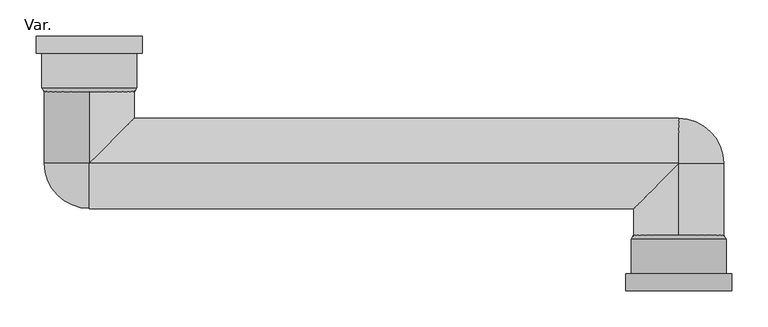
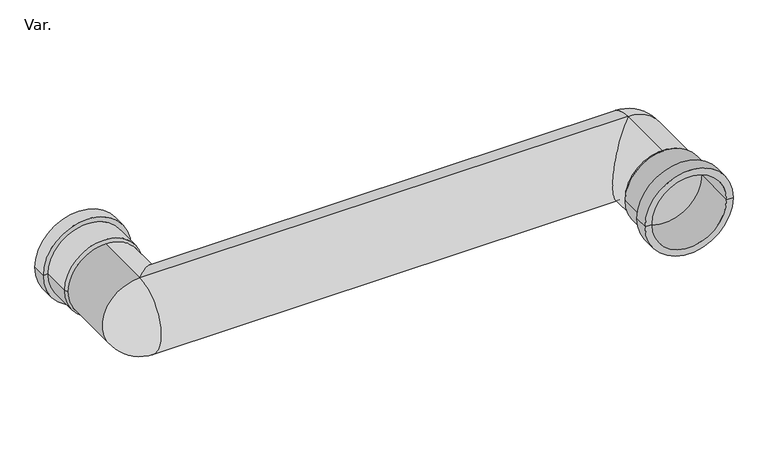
"""IFC4 building model written with IfcOpenShell, lengths in millimetres: pipe fitting geometry, NLRS-90-PIF_Wavin PVC Buitenriolering Polder Expansiestuk : Var.."""

from ifc_helpers import new_model, si_unit, point, frame, origin, place, context, project, spatial, polyline, circle_curve, ellipse_curve, trimmed, source, transform, mapped, element, save
from ifc_brep_helpers import plane_surface, cylinder_surface, revolved_surface, advanced_brep


def var_4b5954e3(model_context):
    return source(origin(), model_context, "Body", "AdvancedBrep", [
        advanced_brep(
        [(345.0, -176.0, 0.0), (470.0, -176.0, 0.0), (470.0, -99.4574374, 0.0), (345.0, -99.4574374, 0.0), (334.0, -176.0, 0.0), (481.0, -176.0, 0.0), (334.0, -152.5, 0.0), (481.0, -152.5, 0.0), (341.8, -152.5, 0.0), (473.2, -152.5, 0.0), (341.8, -105.0, 0.0), (473.2, -105.0, 0.0)],
        [
            (0, 1, circle_curve(frame((407.5, -176.0, 0.0), z_axis=(0.0, -1.0, 0.0), x_axis=(1.0, 0.0, 0.0)), 62.5)),
            (1, 2),
            (2, 3, circle_curve(frame((407.5, -99.4574374, 0.0), z_axis=(0.0, 1.0, 0.0), x_axis=(1.0, 0.0, 0.0)), 62.5)),
            (3, 0),
            (1, 0, circle_curve(frame((407.5, -176.0, 0.0), z_axis=(0.0, -1.0, 0.0), x_axis=(1.0, 0.0, 0.0)), 62.5)),
            (3, 2, circle_curve(frame((407.5, -99.4574374, 0.0), z_axis=(0.0, 1.0, 0.0), x_axis=(1.0, 0.0, 0.0)), 62.5)),
            (4, 5, circle_curve(frame((407.5, -176.0, 0.0), z_axis=(0.0, -1.0, 0.0), x_axis=(1.0, 0.0, 0.0)), 73.5)),
            (5, 1),
            (0, 4),
            (5, 4, circle_curve(frame((407.5, -176.0, 0.0), z_axis=(0.0, -1.0, 0.0), x_axis=(1.0, 0.0, 0.0)), 73.5)),
            (6, 7, circle_curve(frame((407.5, -152.5, 0.0), z_axis=(0.0, -1.0, 0.0), x_axis=(1.0, 0.0, 0.0)), 73.5)),
            (7, 5),
            (4, 6),
            (7, 6, circle_curve(frame((407.5, -152.5, 0.0), z_axis=(0.0, -1.0, 0.0), x_axis=(1.0, 0.0, 0.0)), 73.5)),
            (8, 9, circle_curve(frame((407.5, -152.5, 0.0), z_axis=(0.0, -1.0, 0.0), x_axis=(1.0, 0.0, 0.0)), 65.7)),
            (9, 7),
            (6, 8),
            (9, 8, circle_curve(frame((407.5, -152.5, 0.0), z_axis=(0.0, -1.0, 0.0), x_axis=(1.0, 0.0, 0.0)), 65.7)),
            (10, 11, circle_curve(frame((407.5, -105.0, 0.0), z_axis=(0.0, -1.0, 0.0), x_axis=(1.0, 0.0, 0.0)), 65.7)),
            (11, 9),
            (8, 10),
            (11, 10, circle_curve(frame((407.5, -105.0, 0.0), z_axis=(0.0, -1.0, 0.0), x_axis=(1.0, 0.0, 0.0)), 65.7)),
            (2, 11),
            (10, 3),
        ],
        [
            revolved_surface(polyline([(470.0, -99.4574374, 0.0), (470.0, -175.99999999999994, 0.0)]), (407.5, 373.9400222, 0.0), (0.0, 1.0, 0.0)),
            plane_surface(frame((407.5, -176.0, 0.0), z_axis=(0.0, -1.0, 0.0), x_axis=(1.0, 0.0, 0.0))),
            cylinder_surface(frame((407.5, 373.9400222, 0.0), z_axis=(0.0, 1.0, 0.0), x_axis=(1.0, 0.0, 0.0)), 73.5),
            plane_surface(frame((407.5, -152.5, 0.0), z_axis=(0.0, 1.0, 0.0), x_axis=(1.0, 0.0, 0.0))),
            cylinder_surface(frame((407.5, 373.9400222, 0.0), z_axis=(0.0, 1.0, 0.0), x_axis=(1.0, 0.0, 0.0)), 65.7),
            revolved_surface(polyline([(473.2, -105.0, 0.0), (470.0, -99.4574374, 0.0)]), (407.5, 373.9400222, 0.0), (0.0, 1.0, 0.0)),
        ],
        [
            (0, [[1, 2, 3, 4]]),
            (0, [[5, -4, 6, -2]]),
            (1, [[7, 8, -1, 9]]),
            (1, [[10, -9, -5, -8]]),
            (2, [[11, 12, -7, 13]]),
            (2, [[14, -13, -10, -12]]),
            (3, [[15, 16, -11, 17]]),
            (3, [[18, -17, -14, -16]]),
            (4, [[19, 20, -15, 21]]),
            (4, [[22, -21, -18, -20]]),
            (5, [[-3, 23, -19, 24]]),
            (5, [[-6, -24, -22, -23]]),
        ],
    ),
        advanced_brep(
        [(-345.0, 176.0, 0.0), (-470.0, 176.0, 0.0), (-470.0, 99.4574374, 0.0), (-345.0, 99.4574374, 0.0), (-334.0, 176.0, 0.0), (-481.0, 176.0, 0.0), (-334.0, 152.5, 0.0), (-481.0, 152.5, 0.0), (-341.8, 152.5, 0.0), (-473.2, 152.5, 0.0), (-341.8, 105.0, 0.0), (-473.2, 105.0, 0.0)],
        [
            (0, 1, circle_curve(frame((-407.5, 176.0, 0.0), z_axis=(0.0, 1.0, 0.0), x_axis=(-1.0, 0.0, 0.0)), 62.5)),
            (1, 2),
            (2, 3, circle_curve(frame((-407.5, 99.4574374, 0.0), z_axis=(0.0, -1.0, 0.0), x_axis=(-1.0, 0.0, 0.0)), 62.5)),
            (3, 0),
            (1, 0, circle_curve(frame((-407.5, 176.0, 0.0), z_axis=(0.0, 1.0, 0.0), x_axis=(-1.0, 0.0, 0.0)), 62.5)),
            (3, 2, circle_curve(frame((-407.5, 99.4574374, 0.0), z_axis=(0.0, -1.0, 0.0), x_axis=(-1.0, 0.0, 0.0)), 62.5)),
            (4, 5, circle_curve(frame((-407.5, 176.0, 0.0), z_axis=(0.0, 1.0, 0.0), x_axis=(-1.0, 0.0, 0.0)), 73.5)),
            (5, 1),
            (0, 4),
            (5, 4, circle_curve(frame((-407.5, 176.0, 0.0), z_axis=(0.0, 1.0, 0.0), x_axis=(-1.0, 0.0, 0.0)), 73.5)),
            (6, 7, circle_curve(frame((-407.5, 152.5, 0.0), z_axis=(0.0, 1.0, 0.0), x_axis=(-1.0, 0.0, 0.0)), 73.5)),
            (7, 5),
            (4, 6),
            (7, 6, circle_curve(frame((-407.5, 152.5, 0.0), z_axis=(0.0, 1.0, 0.0), x_axis=(-1.0, 0.0, 0.0)), 73.5)),
            (8, 9, circle_curve(frame((-407.5, 152.5, 0.0), z_axis=(0.0, 1.0, 0.0), x_axis=(-1.0, 0.0, 0.0)), 65.7)),
            (9, 7),
            (6, 8),
            (9, 8, circle_curve(frame((-407.5, 152.5, 0.0), z_axis=(0.0, 1.0, 0.0), x_axis=(-1.0, 0.0, 0.0)), 65.7)),
            (10, 11, circle_curve(frame((-407.5, 105.0, 0.0), z_axis=(0.0, 1.0, 0.0), x_axis=(-1.0, 0.0, 0.0)), 65.7)),
            (11, 9),
            (8, 10),
            (11, 10, circle_curve(frame((-407.5, 105.0, 0.0), z_axis=(0.0, 1.0, 0.0), x_axis=(-1.0, 0.0, 0.0)), 65.7)),
            (2, 11),
            (10, 3),
        ],
        [
            revolved_surface(polyline([(-470.0, 99.4574374, 0.0), (-470.0, 175.99999999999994, 0.0)]), (-407.5, -373.9400222, 0.0), (0.0, -1.0, 0.0)),
            plane_surface(frame((-407.5, 176.0, 0.0), z_axis=(0.0, 1.0, 0.0), x_axis=(-1.0, 0.0, 0.0))),
            cylinder_surface(frame((-407.5, -373.9400222, 0.0), z_axis=(0.0, -1.0, 0.0), x_axis=(-1.0, 0.0, 0.0)), 73.5),
            plane_surface(frame((-407.5, 152.5, 0.0), z_axis=(0.0, -1.0, 0.0), x_axis=(-1.0, 0.0, 0.0))),
            cylinder_surface(frame((-407.5, -373.9400222, 0.0), z_axis=(0.0, -1.0, 0.0), x_axis=(-1.0, 0.0, 0.0)), 65.7),
            revolved_surface(polyline([(-473.2, 105.0, 0.0), (-470.0, 99.4574374, 0.0)]), (-407.5, -373.9400222, 0.0), (0.0, -1.0, 0.0)),
        ],
        [
            (0, [[1, 2, 3, 4]]),
            (0, [[5, -4, 6, -2]]),
            (1, [[7, 8, -1, 9]]),
            (1, [[10, -9, -5, -8]]),
            (2, [[11, 12, -7, 13]]),
            (2, [[14, -13, -10, -12]]),
            (3, [[15, 16, -11, 17]]),
            (3, [[18, -17, -14, -16]]),
            (4, [[19, 20, -15, 21]]),
            (4, [[22, -21, -18, -20]]),
            (5, [[-3, 23, -19, 24]]),
            (5, [[-6, -24, -22, -23]]),
        ],
    ),
        advanced_brep(
        [(407.5, 0.0, -62.5), (407.5, 0.0, 62.5), (-407.5, 0.0, 62.5), (-407.5, 0.0, -62.5), (-407.5, 105.0, -62.5), (-407.5, 105.0, 62.5), (407.5, -105.0, -62.5), (407.5, -105.0, 62.5)],
        [
            (0, 1, circle_curve(frame((407.5, 0.0, 0.0), z_axis=(1.0, 0.0, 0.0), x_axis=(0.0, 0.0, -1.0)), 62.5)),
            (1, 0, circle_curve(frame((407.5, 0.0, 0.0), z_axis=(0.0, 1.0, 0.0), x_axis=(0.0, 0.0, -1.0)), 62.5)),
            (1, 2),
            (2, 3, circle_curve(frame((-407.5, 0.0, 0.0), z_axis=(1.0, 0.0, 0.0), x_axis=(0.0, 0.0, -1.0)), 62.5)),
            (3, 0),
            (0, 1, ellipse_curve(frame((407.5, 0.0, 0.0), z_axis=(-0.7071067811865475, 0.7071067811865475, 0.0), x_axis=(0.7071067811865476, 0.7071067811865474, 0.0)), 88.3883476, 62.5)),
            (3, 2, ellipse_curve(frame((-407.5, 0.0, 0.0), z_axis=(0.7071067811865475, -0.7071067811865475, 0.0), x_axis=(0.7071067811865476, 0.7071067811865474, 0.0)), 88.3883476, 62.5)),
            (2, 3, circle_curve(frame((-407.5, 0.0, 0.0), z_axis=(0.0, -1.0, 0.0), x_axis=(0.0, 0.0, -1.0)), 62.5)),
            (4, 5, circle_curve(frame((-407.5, 105.0, 0.0), z_axis=(0.0, 1.0, 0.0), x_axis=(0.0, 0.0, 1.0)), 62.5)),
            (5, 4, circle_curve(frame((-407.5, 105.0, 0.0), z_axis=(0.0, 1.0, 0.0), x_axis=(0.0, 0.0, 1.0)), 62.5)),
            (4, 3),
            (2, 5),
            (6, 7, circle_curve(frame((407.5, -105.0, 0.0), z_axis=(0.0, -1.0, 0.0), x_axis=(0.0, 0.0, 1.0)), 62.5)),
            (7, 6, circle_curve(frame((407.5, -105.0, 0.0), z_axis=(0.0, -1.0, 0.0), x_axis=(0.0, 0.0, 1.0)), 62.5)),
            (6, 0),
            (1, 7),
        ],
        [
            revolved_surface(trimmed(ellipse_curve(frame((407.5, 0.0, 0.0), z_axis=(0.0, -1.0, 0.0), x_axis=(0.0, 0.0, -1.0)), 62.5, 62.5), [point((407.5, 0.0, -62.5))], [point((407.5, 0.0, 62.5))], True, "CARTESIAN"), (407.5, 0.0, 712.20066), (0.0, 0.0, 1.0)),
            cylinder_surface(frame((-407.5, 0.0, 0.0), z_axis=(1.0, 0.0, 0.0), x_axis=(0.0, 0.0, -1.0)), 62.5),
            revolved_surface(trimmed(ellipse_curve(frame((-407.5, 0.0, 0.0), z_axis=(1.0, 0.0, 0.0), x_axis=(0.0, 0.0, -1.0)), 62.5, 62.5), [point((-407.5, 0.0, 62.5))], [point((-407.5, 0.0, -62.5))], True, "CARTESIAN"), (-407.5, 0.0, -1404.9208958), (0.0, 0.0, -1.0)),
            plane_surface(frame((-407.5, 105.0, 62.5), z_axis=(0.0, 1.0, 0.0), x_axis=(1.0, 0.0, 0.0))),
            cylinder_surface(frame((-407.5, 0.0, 0.0), z_axis=(0.0, 1.0, 0.0), x_axis=(0.0, 0.0, 1.0)), 62.5),
            plane_surface(frame((407.5, -105.0, 62.5), z_axis=(0.0, -1.0, 0.0), x_axis=(-1.0, 0.0, 0.0))),
            cylinder_surface(frame((407.5, 0.0, 0.0), z_axis=(0.0, -1.0, 0.0), x_axis=(0.0, 0.0, 1.0)), 62.5),
        ],
        [
            (0, [[1, 2]]),
            (1, [[3, 4, 5, 6]]),
            (1, [[-3, -1, -5, 7]]),
            (2, [[-4, 8]]),
            (3, [[9, 10]]),
            (4, [[-9, 11, -8, 12]]),
            (4, [[-10, -12, -7, -11]]),
            (5, [[13, 14]]),
            (6, [[-13, 15, -2, 16]]),
            (6, [[-14, -16, -6, -15]]),
        ],
    ),
    ])


if __name__ == "__main__":
    model = new_model("IFC4")
    model_context = context("Model", 3, world=origin())
    ifc_project = project(units=[si_unit("LENGTHUNIT", "METRE", prefix="MILLI")], contexts=[model_context])
    site = spatial("IfcSite", under=ifc_project)
    building = spatial("IfcBuilding", under=site)
    placement = place(None, origin())
    var_shape = var_4b5954e3(model_context)
    element("IfcPipeFitting", 1, ObjectType="NLRS-90-PIF_Wavin PVC Buitenriolering Polder Expansiestuk : Var.", at=placement, inside=building, context=model_context, shape_type="MappedRepresentation", body=[
        mapped(var_shape, transform((0.0, 0.0, 0.0), x_axis=(1.0, 0.0, 0.0), y_axis=(0.0, 1.0, 0.0), z_axis=(0.0, 0.0, 1.0))),
    ])
    save(model, "model.ifc")
